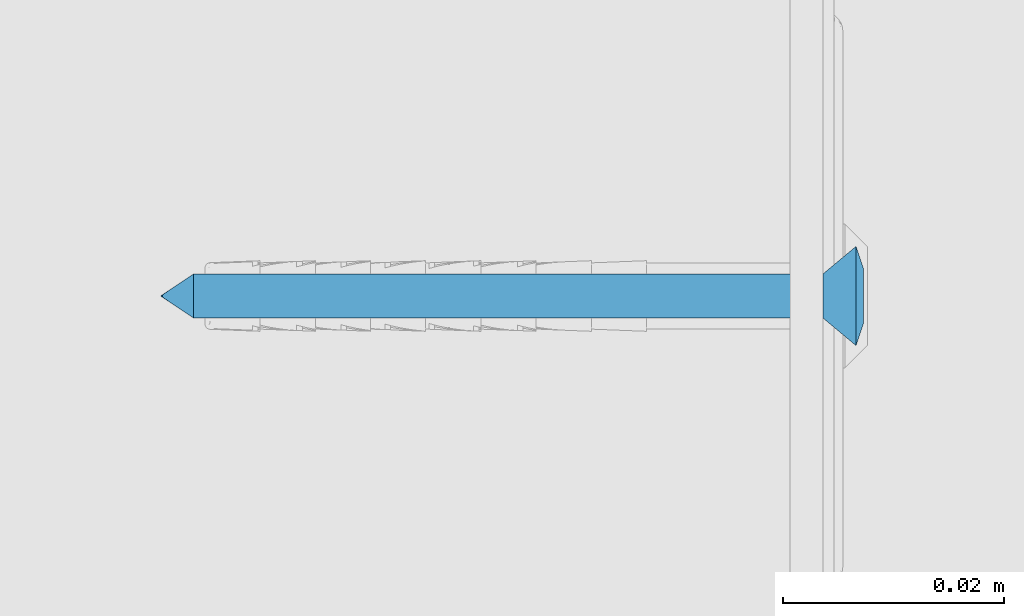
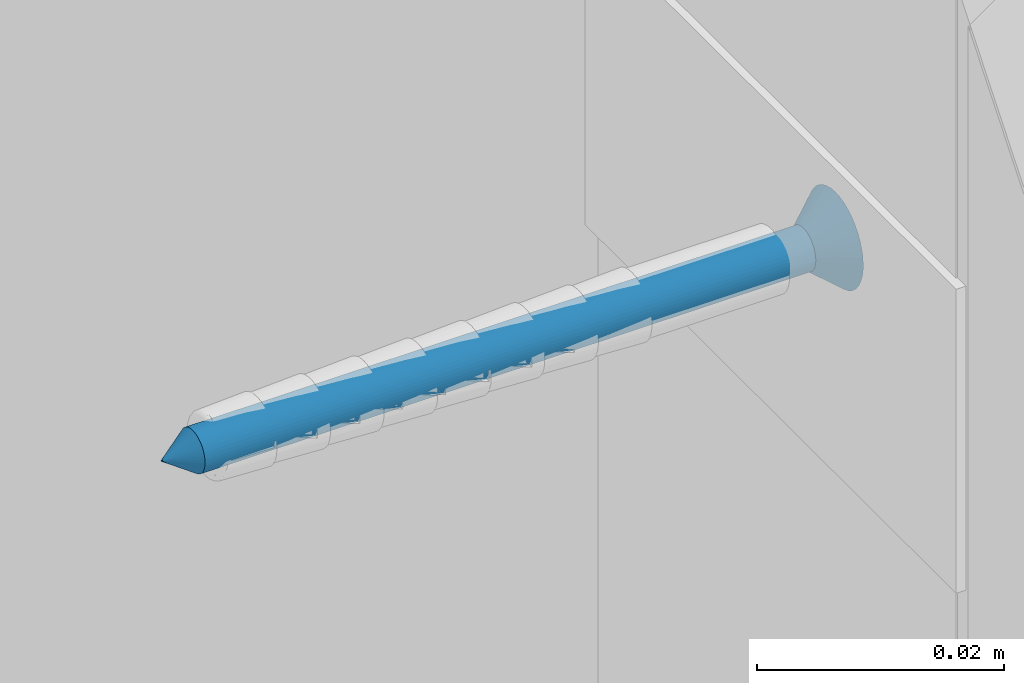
# One storey, part 27 of 62: 1 wall.
"""IFC2X3 building model written with IfcOpenShell, lengths in millimetres."""

from ifc_helpers import new_model, si_unit, frame, origin_with_axes, place, context, subcontext, project, spatial, faceted_brep, material, type_object, element, save


model = new_model("IFC2X3")

# Units and contexts
model_context = context("Model", 3, world=origin_with_axes())
body_context = subcontext(model_context, "Body", "Model", "MODEL_VIEW")
ifc_project = project(units=[si_unit("LENGTHUNIT", "METRE", prefix="MILLI"), si_unit("AREAUNIT", "SQUARE_METRE"), si_unit("VOLUMEUNIT", "CUBIC_METRE")], contexts=[model_context])

# Site, building, storey
site_placement = place(None, frame((2152.14102611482, -2015.0250894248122, 57.61556563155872), z_axis=(0.0, 0.0, 1.0), x_axis=(-1.1102230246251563e-16, 1.0, 0.0)))
site = spatial("IfcSite", under=ifc_project, at=site_placement, Name="Default Site", CompositionType="ELEMENT")
building_placement = place(site_placement, origin_with_axes())
building = spatial("IfcBuilding", under=site, at=building_placement, Name="Default Building", CompositionType="ELEMENT")
storey_placement = place(building_placement, origin_with_axes())
storey = spatial("IfcBuildingStorey", under=building, at=storey_placement, Name="Default Building Storey", CompositionType="ELEMENT", Elevation=57.61556563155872)

# Wall
ifc_material = material(Name="Default")
wall_type = type_object("IfcWallType", Name="Kołek rozporowy min. fi 6#35", PredefinedType="NOTDEFINED")
wall_placement = place(storey_placement, frame((5691.176283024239, 2016.3286110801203, 3630.598905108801), z_axis=(-6.858158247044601e-13, -1.0, 7.64238051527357e-14), x_axis=(-1.6476028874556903e-11, 7.642380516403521e-14, 1.0)))
element("IfcWall", 1, at=wall_placement, inside=storey, type_object=wall_type, material=ifc_material, Name="Kołek rozporowy min. fi 6", context=body_context, shape_type="Brep", body=[
    faceted_brep([(-1438.3141994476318, 3453.2833099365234, -0.46425670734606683), (-1435.8141422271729, 3453.2833099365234, -3.464256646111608), (-1435.7895851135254, 3452.970266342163, -3.464256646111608), (-1438.2587671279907, 3452.579259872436, -0.46425670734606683), (-1435.7162714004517, 3452.6650905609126, -3.464256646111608), (-1438.093900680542, 3451.892614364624, -0.46425670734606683), (-1435.5961084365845, 3452.3751735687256, -3.464256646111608), (-1437.8236532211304, 3451.240301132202, -0.46425670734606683), (-1435.4321956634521, 3452.107667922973, -3.464256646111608), (-1437.4547004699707, 3450.6382942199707, -0.46425670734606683), (-1435.22834777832, 3451.8690109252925, -3.464256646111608), (-1436.9961023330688, 3450.101137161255, -0.46425670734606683), (-1434.9896907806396, 3451.665163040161, -3.464256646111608), (-1436.4591836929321, 3449.642658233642, -0.46425670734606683), (-1434.7221851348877, 3451.501131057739, -3.464256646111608), (-1435.8570575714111, 3449.2735862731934, -0.46425670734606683), (-1434.4321489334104, 3451.381206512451, -3.464256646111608), (-1435.2047443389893, 3449.0034580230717, -0.46425670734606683), (-1434.1269731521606, 3451.307773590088, -3.464256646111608), (-1434.5180988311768, 3448.838710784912, -0.46425670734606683), (-1433.8141679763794, 3451.28321647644, -3.464256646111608), (-1433.8141679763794, 3448.7831592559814, -0.46425670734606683), (-1433.5012435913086, 3451.307773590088, -3.464256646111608), (-1433.110237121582, 3448.838710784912, -0.46425670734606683), (-1433.1960678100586, 3451.381206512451, -3.464256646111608), (-1432.4235916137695, 3449.0034580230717, -0.46425670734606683), (-1432.9061508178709, 3451.501131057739, -3.464256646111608), (-1431.771159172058, 3449.2735862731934, -0.46425670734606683), (-1432.6385259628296, 3451.665163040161, -3.464256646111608), (-1431.1691522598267, 3449.642658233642, -0.46425670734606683), (-1432.3999881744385, 3451.8690109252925, -3.464256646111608), (-1430.6321144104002, 3450.101137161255, -0.46425670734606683), (-1432.1961402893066, 3452.107667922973, -3.464256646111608), (-1430.1735162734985, 3450.6382942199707, -0.46425670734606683), (-1432.0321083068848, 3452.3751735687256, -3.464256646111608), (-1429.8045635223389, 3451.240301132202, -0.46425670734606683), (-1431.9120645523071, 3452.6650905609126, -3.464256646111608), (-1429.5344352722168, 3451.892614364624, -0.46425670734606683), (-1431.8387508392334, 3453.5961151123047, -3.464256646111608), (-1429.369568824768, 3453.9871215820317, -0.46425670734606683), (-1429.314136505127, 3453.2833099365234, -0.46425670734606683), (-1431.814193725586, 3453.2833099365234, -3.464256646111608), (-1429.369568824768, 3452.579259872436, -0.46425670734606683), (-1431.8387508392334, 3452.970266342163, -3.464256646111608), (-1431.9120645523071, 3453.9012908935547, -3.464256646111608), (-1429.5344352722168, 3454.6737670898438, -0.46425670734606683), (-1432.0321083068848, 3454.191207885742, -3.464256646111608), (-1429.8045635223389, 3455.3260803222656, -0.46425670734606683), (-1432.1961402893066, 3454.458713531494, -3.464256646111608), (-1430.1735162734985, 3455.9283256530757, -0.46425670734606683), (-1432.3999881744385, 3454.6973705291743, -3.464256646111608), (-1430.6321144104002, 3456.465244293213, -0.46425670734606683), (-1432.6385259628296, 3454.9012184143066, -3.464256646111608), (-1431.1691522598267, 3456.923723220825, -0.46425670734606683), (-1432.9061508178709, 3455.065250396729, -3.464256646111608), (-1431.771159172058, 3457.2927951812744, -0.46425670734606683), (-1433.1960678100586, 3455.1854133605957, -3.464256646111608), (-1432.4235916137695, 3457.562923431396, -0.46425670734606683), (-1433.5012435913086, 3455.25860786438, -3.464256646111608), (-1433.110237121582, 3457.7279090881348, -0.46425670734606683), (-1433.8141679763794, 3455.283164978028, -3.464256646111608), (-1433.8141679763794, 3457.7832221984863, -0.46425670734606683), (-1434.3430995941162, 3457.7519893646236, -0.46425670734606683), (-1434.1269731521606, 3455.25860786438, -3.464256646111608), (-1434.4321489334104, 3455.1854133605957, -3.464256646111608), (-1434.8646402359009, 3457.6590061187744, -0.46425670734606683), (-1435.3716373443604, 3457.504987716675, -0.46425670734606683), (-1434.7221851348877, 3455.065250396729, -3.464256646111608), (-1435.8570575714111, 3457.2927951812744, -0.46425670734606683), (-1434.9896907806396, 3454.9012184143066, -3.464256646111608), (-1435.22834777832, 3454.6973705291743, -3.464256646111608), (-1436.3142251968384, 3457.024812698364, -0.46425670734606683), (-1436.7367029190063, 3456.705093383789, -0.46425670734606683), (-1437.118649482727, 3456.337928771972, -0.46425670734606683), (-1437.4547004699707, 3455.9283256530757, -0.46425670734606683), (-1435.4321956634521, 3454.458713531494, -3.464256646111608), (-1435.5961084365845, 3454.191207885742, -3.464256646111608), (-1437.8236532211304, 3455.3260803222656, -0.46425670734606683), (-1435.7162714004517, 3453.9012908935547, -3.464256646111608), (-1438.093900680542, 3454.6737670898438, -0.46425670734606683), (-1435.7895851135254, 3453.5961151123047, -3.464256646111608), (-1438.2587671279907, 3453.9871215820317, -0.46425670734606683), (-1434.2052936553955, 3455.752372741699, 0.20073754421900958), (-1433.8141679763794, 3455.7831287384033, 0.20073754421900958), (-1434.5866441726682, 3455.6608200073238, 0.20073754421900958), (-1434.9491596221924, 3455.510854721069, 0.20073754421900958), (-1435.2836608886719, 3455.305814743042, 0.20073754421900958), (-1435.581922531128, 3455.0509452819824, 0.20073754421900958), (-1435.836672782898, 3454.7526836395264, 0.20073754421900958), (-1436.0417127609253, 3454.418182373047, 0.20073754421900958), (-1436.1917972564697, 3454.0557861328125, 0.20073754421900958), (-1436.2833499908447, 3453.6743164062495, 0.20073754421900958), (-1436.3141059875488, 3453.2833099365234, 0.20073754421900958), (-1436.2833499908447, 3452.8920650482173, 0.20073754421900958), (-1436.1917972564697, 3452.5105953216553, 0.20073754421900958), (-1436.0417127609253, 3452.148199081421, 0.20073754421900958), (-1435.836672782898, 3451.8136978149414, 0.20073754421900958), (-1435.581922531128, 3451.5154361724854, 0.20073754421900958), (-1435.2836608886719, 3451.260566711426, 0.20073754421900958), (-1434.9491596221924, 3451.0557651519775, 0.20073754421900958), (-1434.5866441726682, 3450.905561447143, 0.20073754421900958), (-1433.4230422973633, 3450.8140087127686, 0.20073754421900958), (-1433.8141679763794, 3450.7832527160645, 0.20073754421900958), (-1434.2052936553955, 3450.8140087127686, 0.20073754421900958), (-1433.0415725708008, 3450.905561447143, 0.20073754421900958), (-1432.6791763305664, 3451.0557651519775, 0.20073754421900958), (-1432.344675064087, 3451.260566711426, 0.20073754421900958), (-1432.0464134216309, 3451.5154361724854, 0.20073754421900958), (-1431.7916631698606, 3451.8136978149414, 0.20073754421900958), (-1431.5866231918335, 3452.148199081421, 0.20073754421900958), (-1431.436538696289, 3452.5105953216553, 0.20073754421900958), (-1431.344985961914, 3452.8920650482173, 0.20073754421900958), (-1431.3141107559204, 3453.2833099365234, 0.20073754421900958), (-1431.344985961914, 3453.6743164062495, 0.20073754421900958), (-1431.436538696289, 3454.0557861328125, 0.20073754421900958), (-1431.5866231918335, 3454.418182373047, 0.20073754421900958), (-1431.7916631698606, 3454.7526836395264, 0.20073754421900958), (-1432.0464134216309, 3455.0509452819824, 0.20073754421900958), (-1432.344675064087, 3455.305814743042, 0.20073754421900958), (-1432.6791763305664, 3455.510854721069, 0.20073754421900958), (-1433.0415725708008, 3455.6608200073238, 0.20073754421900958), (-1433.4230422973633, 3455.752372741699, 0.20073754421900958), (-1433.8141679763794, 3453.2833099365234, -63.46425414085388), (-1435.7895851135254, 3452.970266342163, -60.464255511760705), (-1435.8141422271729, 3453.2833099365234, -60.464255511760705), (-1435.7162714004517, 3452.6650905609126, -60.464255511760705), (-1435.5961084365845, 3452.3751735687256, -60.464255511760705), (-1435.4321956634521, 3452.107667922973, -60.464255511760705), (-1435.22834777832, 3451.8690109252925, -60.464255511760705), (-1434.9896907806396, 3451.665163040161, -60.464255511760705), (-1434.7221851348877, 3451.501131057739, -60.464255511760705), (-1434.4321489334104, 3451.381206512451, -60.464255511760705), (-1434.1269731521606, 3451.307773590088, -60.464255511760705), (-1433.8141679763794, 3451.28321647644, -60.464255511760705), (-1433.5012435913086, 3451.307773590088, -60.464255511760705), (-1433.1960678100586, 3451.381206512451, -60.464255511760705), (-1432.9061508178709, 3451.501131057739, -60.464255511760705), (-1432.6385259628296, 3451.665163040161, -60.464255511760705), (-1432.3999881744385, 3451.8690109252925, -60.464255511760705), (-1432.1961402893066, 3452.107667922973, -60.464255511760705), (-1432.0321083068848, 3452.3751735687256, -60.464255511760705), (-1431.9120645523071, 3452.6650905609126, -60.464255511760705), (-1431.8387508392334, 3452.970266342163, -60.464255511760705), (-1431.814193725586, 3453.2833099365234, -60.464255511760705), (-1431.8387508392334, 3453.5961151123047, -60.464255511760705), (-1431.9120645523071, 3453.9012908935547, -60.464255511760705), (-1432.0321083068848, 3454.191207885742, -60.464255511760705), (-1432.1961402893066, 3454.458713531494, -60.464255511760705), (-1432.3999881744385, 3454.6973705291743, -60.464255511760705), (-1432.6385259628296, 3454.9012184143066, -60.464255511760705), (-1432.9061508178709, 3455.065250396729, -60.464255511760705), (-1433.1960678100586, 3455.1854133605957, -60.464255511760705), (-1433.5012435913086, 3455.25860786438, -60.464255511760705), (-1433.8141679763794, 3455.283164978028, -60.464255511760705), (-1434.1269731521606, 3455.25860786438, -60.464255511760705), (-1434.4321489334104, 3455.1854133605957, -60.464255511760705), (-1434.7221851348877, 3455.065250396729, -60.464255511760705), (-1434.9896907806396, 3454.9012184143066, -60.464255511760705), (-1435.22834777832, 3454.6973705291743, -60.464255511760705), (-1435.4321956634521, 3454.458713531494, -60.464255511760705), (-1435.5961084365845, 3454.191207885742, -60.464255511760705), (-1435.7162714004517, 3453.9012908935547, -60.464255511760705), (-1435.7895851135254, 3453.5961151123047, -60.464255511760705), (-1436.0417127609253, 3454.418182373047, 0.049999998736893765), (-1436.1917972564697, 3454.0557861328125, 0.049999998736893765), (-1436.2833499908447, 3453.6743164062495, 0.049999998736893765), (-1436.3141059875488, 3453.2833099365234, 0.049999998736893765), (-1436.2833499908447, 3452.8920650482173, 0.049999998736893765), (-1436.1917972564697, 3452.5105953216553, 0.049999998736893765), (-1436.0417127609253, 3452.148199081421, 0.049999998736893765), (-1435.836672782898, 3451.8136978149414, 0.049999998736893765), (-1435.581922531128, 3451.5154361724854, 0.049999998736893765), (-1435.2836608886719, 3451.260566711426, 0.049999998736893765), (-1434.9491596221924, 3451.0557651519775, 0.049999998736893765), (-1434.5866441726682, 3450.905561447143, 0.049999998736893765), (-1434.2052936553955, 3450.8140087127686, 0.049999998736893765), (-1433.8141679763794, 3450.7832527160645, 0.049999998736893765), (-1433.4230422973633, 3450.8140087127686, 0.049999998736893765), (-1433.0415725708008, 3450.905561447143, 0.049999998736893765), (-1432.6791763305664, 3451.0557651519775, 0.049999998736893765), (-1432.344675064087, 3451.260566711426, 0.049999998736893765), (-1432.0464134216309, 3451.5154361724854, 0.049999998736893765), (-1431.7916631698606, 3451.8136978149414, 0.049999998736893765), (-1431.5866231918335, 3452.148199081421, 0.049999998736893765), (-1431.436538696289, 3452.5105953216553, 0.049999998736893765), (-1431.344985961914, 3452.8920650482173, 0.049999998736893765), (-1431.3141107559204, 3453.2833099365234, 0.049999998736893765), (-1431.344985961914, 3453.6743164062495, 0.049999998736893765), (-1431.436538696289, 3454.0557861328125, 0.049999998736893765), (-1431.5866231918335, 3454.418182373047, 0.049999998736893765), (-1431.7916631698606, 3454.7526836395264, 0.049999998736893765), (-1432.0464134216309, 3455.0509452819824, 0.049999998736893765), (-1432.344675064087, 3455.305814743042, 0.049999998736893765), (-1432.6791763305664, 3455.510854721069, 0.049999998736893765), (-1433.0415725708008, 3455.6608200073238, 0.049999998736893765), (-1433.4230422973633, 3455.752372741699, 0.049999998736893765), (-1433.8141679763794, 3455.7831287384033, 0.049999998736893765), (-1434.2052936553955, 3455.752372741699, 0.049999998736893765), (-1434.5866441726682, 3455.6608200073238, 0.049999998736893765), (-1434.9491596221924, 3455.510854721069, 0.049999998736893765), (-1435.2836608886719, 3455.305814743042, 0.049999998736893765), (-1435.581922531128, 3455.0509452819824, 0.049999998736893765), (-1435.836672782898, 3454.7526836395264, 0.049999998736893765), (-1434.3141317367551, 3452.7831077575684, 0.049999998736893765), (-1435.8141422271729, 3452.7831077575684, 0.049999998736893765), (-1435.8141422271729, 3453.7832736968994, 0.049999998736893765), (-1434.3141317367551, 3453.7832736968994, 0.049999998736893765), (-1434.3141317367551, 3455.283164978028, 0.049999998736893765), (-1433.3142042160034, 3455.283164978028, 0.049999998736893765), (-1433.3142042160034, 3453.7832736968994, 0.049999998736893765), (-1431.814193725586, 3453.7832736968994, 0.049999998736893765), (-1431.814193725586, 3452.7831077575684, 0.049999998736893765), (-1433.3142042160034, 3452.7831077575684, 0.049999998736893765), (-1433.3142042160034, 3451.28321647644, 0.049999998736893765), (-1434.3141317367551, 3451.28321647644, 0.049999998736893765), (-1434.3141317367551, 3452.7831077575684, -1.799262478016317), (-1434.3141317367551, 3451.28321647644, -1.799262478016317), (-1433.3142042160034, 3451.28321647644, -1.799262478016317), (-1433.3142042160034, 3452.7831077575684, -1.799262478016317), (-1431.814193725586, 3452.7831077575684, -1.799262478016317), (-1431.814193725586, 3453.7832736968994, -1.799262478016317), (-1433.3142042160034, 3453.7832736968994, -1.799262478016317), (-1433.3142042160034, 3455.283164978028, -1.799262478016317), (-1434.3141317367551, 3455.283164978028, -1.799262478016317), (-1434.3141317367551, 3453.7832736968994, -1.799262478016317), (-1435.8141422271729, 3453.7832736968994, -1.799262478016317), (-1435.8141422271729, 3452.7831077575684, -1.799262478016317)], [[[0, 1, 2, 3]], [[4, 5, 3, 2]], [[6, 7, 5, 4]], [[7, 6, 8, 9]], [[10, 11, 9, 8]], [[11, 10, 12, 13]], [[14, 15, 13, 12]], [[16, 17, 15, 14]], [[17, 16, 18, 19]], [[20, 21, 19, 18]], [[21, 20, 22, 23]], [[24, 25, 23, 22]], [[26, 27, 25, 24]], [[27, 26, 28, 29]], [[30, 31, 29, 28]], [[31, 30, 32, 33]], [[34, 35, 33, 32]], [[36, 37, 35, 34]], [[38, 39, 40, 41]], [[41, 40, 42, 43]], [[37, 36, 43, 42]], [[44, 45, 39, 38]], [[46, 47, 45, 44]], [[47, 46, 48, 49]], [[50, 51, 49, 48]], [[51, 50, 52, 53]], [[54, 55, 53, 52]], [[56, 57, 55, 54]], [[57, 56, 58, 59]], [[60, 61, 59, 58]], [[62, 61, 63]], [[61, 60, 63]], [[63, 64, 62]], [[64, 65, 62]], [[66, 65, 64]], [[64, 67, 66]], [[67, 68, 66]], [[69, 70, 71]], [[70, 72, 71]], [[71, 68, 69]], [[68, 67, 69]], [[70, 73, 72]], [[74, 73, 75]], [[73, 70, 75]], [[76, 77, 74, 75]], [[78, 79, 77, 76]], [[79, 78, 80, 81]], [[1, 0, 81, 80]], [[82, 83, 62]], [[83, 61, 62]], [[62, 65, 82]], [[65, 84, 82]], [[66, 68, 84]], [[68, 85, 84]], [[84, 65, 66]], [[86, 85, 71]], [[85, 68, 71]], [[72, 73, 87]], [[87, 86, 72]], [[86, 71, 72]], [[88, 87, 74]], [[87, 73, 74]], [[77, 89, 88, 74]], [[79, 90, 89, 77]], [[90, 79, 81, 91]], [[0, 92, 91, 81]], [[92, 0, 3, 93]], [[5, 94, 93, 3]], [[7, 95, 94, 5]], [[95, 7, 9, 96]], [[11, 97, 96, 9]], [[97, 11, 13, 98]], [[15, 99, 98, 13]], [[17, 100, 99, 15]], [[23, 101, 102, 21]], [[21, 102, 103, 19]], [[100, 17, 19, 103]], [[25, 104, 101, 23]], [[27, 105, 104, 25]], [[105, 27, 29, 106]], [[31, 107, 106, 29]], [[107, 31, 33, 108]], [[35, 109, 108, 33]], [[37, 110, 109, 35]], [[110, 37, 42, 111]], [[40, 112, 111, 42]], [[112, 40, 39, 113]], [[45, 114, 113, 39]], [[47, 115, 114, 45]], [[115, 47, 49, 116]], [[51, 117, 116, 49]], [[117, 51, 53, 118]], [[55, 119, 118, 53]], [[57, 120, 119, 55]], [[120, 57, 59, 121]], [[61, 83, 121, 59]], [[122, 123, 124]], [[122, 125, 123]], [[122, 126, 125]], [[127, 126, 122]], [[122, 128, 127]], [[129, 128, 122]], [[122, 130, 129]], [[122, 131, 130]], [[132, 131, 122]], [[122, 133, 132]], [[134, 133, 122]], [[122, 135, 134]], [[122, 136, 135]], [[137, 136, 122]], [[122, 138, 137]], [[139, 138, 122]], [[122, 140, 139]], [[122, 141, 140]], [[142, 141, 122]], [[122, 143, 142]], [[144, 143, 122]], [[122, 145, 144]], [[122, 146, 145]], [[147, 146, 122]], [[122, 148, 147]], [[149, 148, 122]], [[122, 150, 149]], [[122, 151, 150]], [[152, 151, 122]], [[122, 153, 152]], [[154, 153, 122]], [[122, 155, 154]], [[122, 156, 155]], [[157, 156, 122]], [[122, 158, 157]], [[159, 158, 122]], [[122, 160, 159]], [[122, 161, 160]], [[162, 161, 122]], [[124, 162, 122]], [[1, 124, 123, 2]], [[125, 4, 2, 123]], [[126, 6, 4, 125]], [[6, 126, 127, 8]], [[128, 10, 8, 127]], [[10, 128, 129, 12]], [[130, 14, 12, 129]], [[131, 16, 14, 130]], [[16, 131, 132, 18]], [[133, 20, 18, 132]], [[20, 133, 134, 22]], [[135, 24, 22, 134]], [[136, 26, 24, 135]], [[26, 136, 137, 28]], [[138, 30, 28, 137]], [[30, 138, 139, 32]], [[140, 34, 32, 139]], [[141, 36, 34, 140]], [[144, 38, 41, 143]], [[143, 41, 43, 142]], [[36, 141, 142, 43]], [[145, 44, 38, 144]], [[146, 46, 44, 145]], [[46, 146, 147, 48]], [[148, 50, 48, 147]], [[50, 148, 149, 52]], [[150, 54, 52, 149]], [[151, 56, 54, 150]], [[56, 151, 152, 58]], [[153, 60, 58, 152]], [[60, 153, 154, 63]], [[155, 64, 63, 154]], [[156, 67, 64, 155]], [[67, 156, 157, 69]], [[158, 70, 69, 157]], [[70, 158, 159, 75]], [[160, 76, 75, 159]], [[161, 78, 76, 160]], [[78, 161, 162, 80]], [[124, 1, 80, 162]], [[163, 164, 165, 166, 167, 168, 169, 170, 171, 172, 173, 174, 175, 176, 177, 178, 179, 180, 181, 182, 183, 184, 185, 186, 187, 188, 189, 190, 191, 192, 193, 194, 195, 196, 197, 198, 199, 200, 201, 202], [203, 204, 205, 206, 207, 208, 209, 210, 211, 212, 213, 214]], [[187, 186, 112, 113]], [[113, 114, 188, 187]], [[114, 115, 189, 188]], [[190, 189, 115, 116]], [[116, 117, 191, 190]], [[192, 191, 117, 118]], [[118, 119, 193, 192]], [[119, 120, 194, 193]], [[195, 194, 120, 121]], [[121, 83, 196, 195]], [[197, 196, 83, 82]], [[82, 84, 198, 197]], [[84, 85, 199, 198]], [[200, 199, 85, 86]], [[86, 87, 201, 200]], [[202, 201, 87, 88]], [[88, 89, 163, 202]], [[89, 90, 164, 163]], [[92, 93, 167, 166]], [[91, 92, 166, 165]], [[165, 164, 90, 91]], [[93, 94, 168, 167]], [[94, 95, 169, 168]], [[170, 169, 95, 96]], [[96, 97, 171, 170]], [[172, 171, 97, 98]], [[98, 99, 173, 172]], [[99, 100, 174, 173]], [[175, 174, 100, 103]], [[103, 102, 176, 175]], [[177, 176, 102, 101]], [[101, 104, 178, 177]], [[104, 105, 179, 178]], [[180, 179, 105, 106]], [[106, 107, 181, 180]], [[182, 181, 107, 108]], [[108, 109, 183, 182]], [[109, 110, 184, 183]], [[185, 184, 110, 111]], [[111, 112, 186, 185]], [[215, 216, 217, 218, 219, 220, 221, 222, 223, 224, 225, 226]], [[216, 214, 213, 217]], [[215, 203, 214, 216]], [[226, 204, 203, 215]], [[225, 205, 204, 226]], [[224, 206, 205, 225]], [[223, 207, 206, 224]], [[222, 208, 207, 223]], [[221, 209, 208, 222]], [[220, 210, 209, 221]], [[219, 211, 210, 220]], [[218, 212, 211, 219]], [[217, 213, 212, 218]]]),
])

save(model, "model.ifc")
